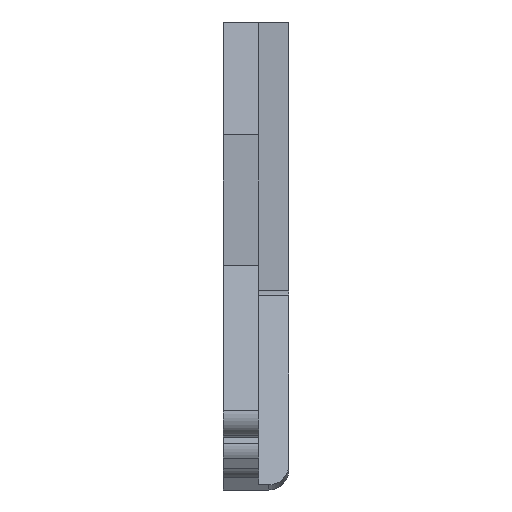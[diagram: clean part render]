
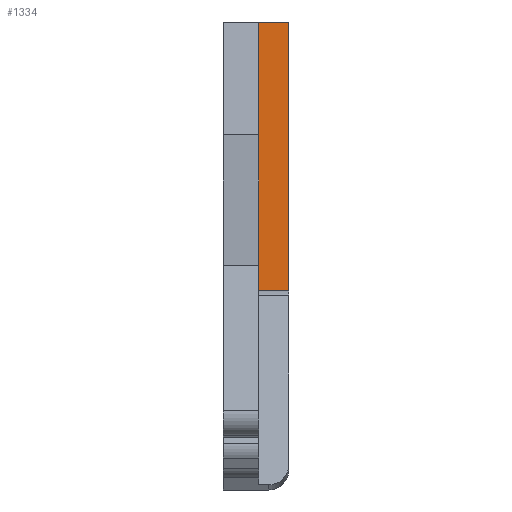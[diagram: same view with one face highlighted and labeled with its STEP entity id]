
A CAD part, left-side view. The second image highlights one B-rep face of the part: STEP entity #1334.
In plain terms, the highlighted planar face has unit normal (-1, 0, 0).
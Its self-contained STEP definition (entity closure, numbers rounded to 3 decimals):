
#21 = LINE ( 'NONE', #1034, #1290 ) ;
#27 = VECTOR ( 'NONE', #1575, 1000. ) ;
#100 = FACE_OUTER_BOUND ( 'NONE', #400, .T. ) ;
#114 = AXIS2_PLACEMENT_3D ( 'NONE', #120, #1570, #1284 ) ;
#120 = CARTESIAN_POINT ( 'NONE',  ( -27., -3., -27.765 ) ) ;
#289 = DIRECTION ( 'NONE',  ( 0., 0., -1. ) ) ;
#400 = EDGE_LOOP ( 'NONE', ( #856, #1276, #609, #1843 ) ) ;
#439 = LINE ( 'NONE', #1765, #799 ) ;
#535 = EDGE_CURVE ( 'NONE', #1662, #790, #439, .T. ) ;
#566 = DIRECTION ( 'NONE',  ( 0., 1., 0. ) ) ;
#609 = ORIENTED_EDGE ( 'NONE', *, *, #1729, .F. ) ;
#708 = CARTESIAN_POINT ( 'NONE',  ( -27., -3., -0.765 ) ) ;
#790 = VERTEX_POINT ( 'NONE', #1409 ) ;
#799 = VECTOR ( 'NONE', #566, 1000. ) ;
#836 = LINE ( 'NONE', #708, #1259 ) ;
#856 = ORIENTED_EDGE ( 'NONE', *, *, #1469, .F. ) ;
#1034 = CARTESIAN_POINT ( 'NONE',  ( -27., -3., -27.765 ) ) ;
#1129 = PLANE ( 'NONE',  #114 ) ;
#1259 = VECTOR ( 'NONE', #1298, 1000. ) ;
#1276 = ORIENTED_EDGE ( 'NONE', *, *, #1358, .T. ) ;
#1284 = DIRECTION ( 'NONE',  ( 0., 0., -1. ) ) ;
#1290 = VECTOR ( 'NONE', #289, 1000. ) ;
#1298 = DIRECTION ( 'NONE',  ( 0., 1., 0. ) ) ;
#1334 = ADVANCED_FACE ( 'NONE', ( #100 ), #1129, .T. ) ;
#1351 = CARTESIAN_POINT ( 'NONE',  ( -27., -3., -0.765 ) ) ;
#1358 = EDGE_CURVE ( 'NONE', #1388, #1789, #836, .T. ) ;
#1388 = VERTEX_POINT ( 'NONE', #1351 ) ;
#1409 = CARTESIAN_POINT ( 'NONE',  ( -27., 0., -27.501 ) ) ;
#1469 = EDGE_CURVE ( 'NONE', #1388, #1662, #21, .T. ) ;
#1570 = DIRECTION ( 'NONE',  ( -1., 0., 0. ) ) ;
#1575 = DIRECTION ( 'NONE',  ( 0., 0., 1. ) ) ;
#1589 = CARTESIAN_POINT ( 'NONE',  ( -27., 0., -0.765 ) ) ;
#1662 = VERTEX_POINT ( 'NONE', #1895 ) ;
#1725 = LINE ( 'NONE', #1589, #27 ) ;
#1729 = EDGE_CURVE ( 'NONE', #790, #1789, #1725, .T. ) ;
#1765 = CARTESIAN_POINT ( 'NONE',  ( -27., 0., -27.501 ) ) ;
#1789 = VERTEX_POINT ( 'NONE', #1903 ) ;
#1843 = ORIENTED_EDGE ( 'NONE', *, *, #535, .F. ) ;
#1895 = CARTESIAN_POINT ( 'NONE',  ( -27., -3., -27.501 ) ) ;
#1903 = CARTESIAN_POINT ( 'NONE',  ( -27., 0., -0.765 ) ) ;
